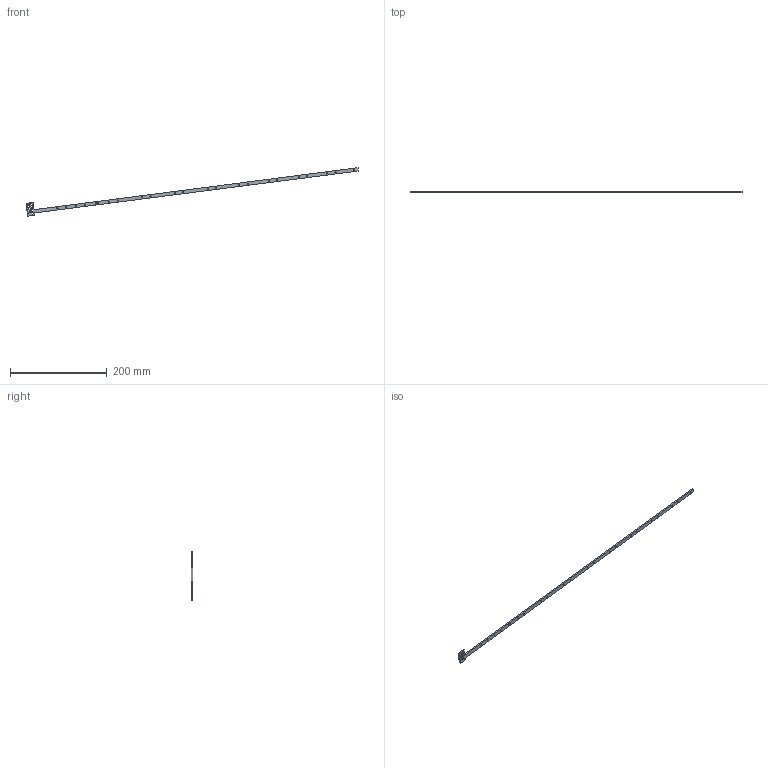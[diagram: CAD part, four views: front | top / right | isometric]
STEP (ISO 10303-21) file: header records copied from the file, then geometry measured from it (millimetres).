
FILE_DESCRIPTION((''),'2;1');
FILE_NAME('0000203985','2024-02-23T16:49:27',('Wyndorps'),(''),'CREO PARAMETRIC BY PTC INC, 2022484','CREO PARAMETRIC BY PTC INC, 2022484','');
FILE_SCHEMA(('CONFIG_CONTROL_DESIGN'));
Length unit declared in the file: millimetre
Products named in the file (1): 0000203985
Bounding box: 687.95 x 3 x 100.56 mm (x, y, z)
Volume: 14752.6 mm3; surface area: 15126.2 mm2
Topology: 1 solids, 1 shells, 114 faces, 336 edges, 224 vertices
Faces by surface type: plane 72, cylinder 42
Entity records: 3966 total; most frequent: CARTESIAN_POINT 674, ORIENTED_EDGE 672, DIRECTION 648, EDGE_CURVE 336, VECTOR 252, LINE 252, VERTEX_POINT 224, AXIS2_PLACEMENT_3D 198
